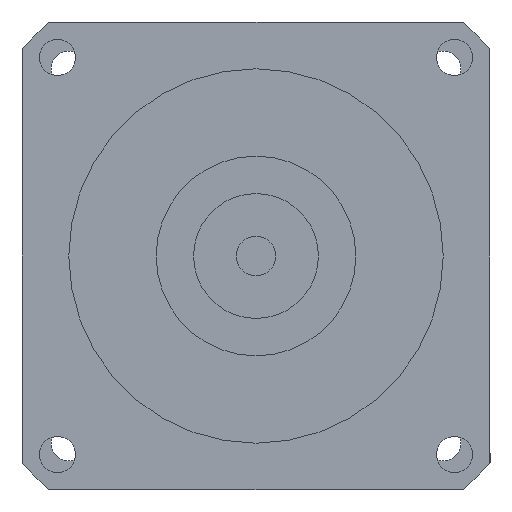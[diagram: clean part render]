
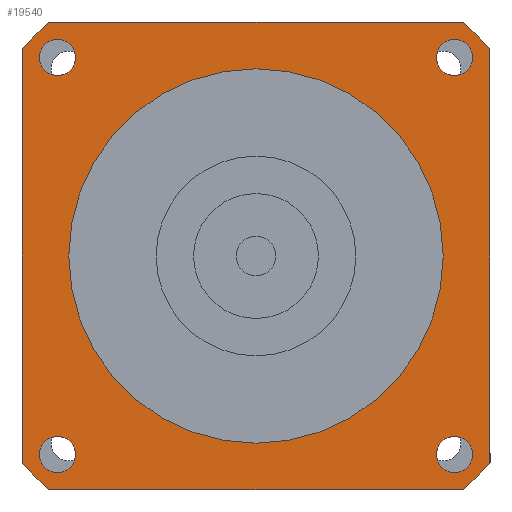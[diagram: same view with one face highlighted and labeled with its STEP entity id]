
A CAD part, left-side view. The second image highlights one B-rep face of the part: STEP entity #19540.
In plain terms, the highlighted planar face has unit normal (-1, 0, 0) as drawn and (0, 0, -1) by its records, which use the part's own axes.
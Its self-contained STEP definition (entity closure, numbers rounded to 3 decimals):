
#17700=CARTESIAN_POINT('',(-28.92,-31.82,-93.));
#17710=VERTEX_POINT('',#17700);
#17790=CARTESIAN_POINT('',(-34.72,-31.82,-93.));
#17800=VERTEX_POINT('',#17790);
#17830=CARTESIAN_POINT('',(-31.82,-31.82,-93.));
#17840=DIRECTION('',(0.,0.,-1.));
#17850=DIRECTION('',(0.,-1.,0.));
#17860=AXIS2_PLACEMENT_3D('',#17830,#17840,#17850);
#17870=CIRCLE('',#17860,2.9);
#17880=CARTESIAN_POINT('',(-31.82,-34.72,-93.));
#17890=VERTEX_POINT('',#17880);
#17900=EDGE_CURVE('',#17890,#17800,#17870,.T.);
#17920=EDGE_CURVE('',#17710,#17890,#17870,.T.);
#17970=CARTESIAN_POINT('',(-37.5,37.5,-93.));
#17980=DIRECTION('',(0.,0.,1.));
#17990=DIRECTION('',(-1.,0.,0.));
#18000=AXIS2_PLACEMENT_3D('',#17970,#17980,#17990);
#18010=PLANE('',#18000);
#18020=CARTESIAN_POINT('',(31.82,-31.82,-93.));
#18030=DIRECTION('',(0.,0.,-1.));
#18040=DIRECTION('',(1.,0.,0.));
#18050=AXIS2_PLACEMENT_3D('',#18020,#18030,#18040);
#18060=CIRCLE('',#18050,2.9);
#18070=CARTESIAN_POINT('',(34.72,-31.82,-93.));
#18080=VERTEX_POINT('',#18070);
#18090=CARTESIAN_POINT('',(31.82,-34.72,-93.));
#18100=VERTEX_POINT('',#18090);
#18110=EDGE_CURVE('',#18080,#18100,#18060,.T.);
#18120=ORIENTED_EDGE('',*,*,#18110,.F.);
#18130=CARTESIAN_POINT('',(31.82,-28.92,-93.));
#18140=VERTEX_POINT('',#18130);
#18150=EDGE_CURVE('',#18100,#18140,#18060,.T.);
#18160=ORIENTED_EDGE('',*,*,#18150,.F.);
#18170=EDGE_CURVE('',#18140,#18080,#18060,.T.);
#18180=ORIENTED_EDGE('',*,*,#18170,.F.);
#18190=EDGE_LOOP('',(#18180,#18160,#18120));
#18200=FACE_BOUND('',#18190,.T.);
#18210=CARTESIAN_POINT('',(31.82,31.82,-93.));
#18220=DIRECTION('',(0.,0.,-1.));
#18230=DIRECTION('',(0.,1.,0.));
#18240=AXIS2_PLACEMENT_3D('',#18210,#18220,#18230);
#18250=CIRCLE('',#18240,2.9);
#18260=CARTESIAN_POINT('',(31.82,34.72,-93.));
#18270=VERTEX_POINT('',#18260);
#18280=CARTESIAN_POINT('',(34.72,31.82,-93.));
#18290=VERTEX_POINT('',#18280);
#18300=EDGE_CURVE('',#18270,#18290,#18250,.T.);
#18310=ORIENTED_EDGE('',*,*,#18300,.F.);
#18320=CARTESIAN_POINT('',(28.92,31.82,-93.));
#18330=VERTEX_POINT('',#18320);
#18340=EDGE_CURVE('',#18290,#18330,#18250,.T.);
#18350=ORIENTED_EDGE('',*,*,#18340,.F.);
#18360=EDGE_CURVE('',#18330,#18270,#18250,.T.);
#18370=ORIENTED_EDGE('',*,*,#18360,.F.);
#18380=EDGE_LOOP('',(#18370,#18350,#18310));
#18390=FACE_BOUND('',#18380,.T.);
#18400=CARTESIAN_POINT('',(-31.82,31.82,-93.));
#18410=DIRECTION('',(0.,0.,-1.));
#18420=DIRECTION('',(-1.,0.,0.));
#18430=AXIS2_PLACEMENT_3D('',#18400,#18410,#18420);
#18440=CIRCLE('',#18430,2.9);
#18450=CARTESIAN_POINT('',(-34.72,31.82,-93.));
#18460=VERTEX_POINT('',#18450);
#18470=CARTESIAN_POINT('',(-31.82,34.72,-93.));
#18480=VERTEX_POINT('',#18470);
#18490=EDGE_CURVE('',#18460,#18480,#18440,.T.);
#18500=ORIENTED_EDGE('',*,*,#18490,.F.);
#18510=CARTESIAN_POINT('',(-31.82,28.92,-93.));
#18520=VERTEX_POINT('',#18510);
#18530=EDGE_CURVE('',#18480,#18520,#18440,.T.);
#18540=ORIENTED_EDGE('',*,*,#18530,.F.);
#18550=EDGE_CURVE('',#18520,#18460,#18440,.T.);
#18560=ORIENTED_EDGE('',*,*,#18550,.F.);
#18570=EDGE_LOOP('',(#18560,#18540,#18500));
#18580=FACE_BOUND('',#18570,.T.);
#18590=ORIENTED_EDGE('',*,*,#17900,.F.);
#18600=EDGE_CURVE('',#17800,#17710,#17870,.T.);
#18610=ORIENTED_EDGE('',*,*,#18600,.F.);
#18620=ORIENTED_EDGE('',*,*,#17920,.F.);
#18630=EDGE_LOOP('',(#18620,#18610,#18590));
#18640=FACE_BOUND('',#18630,.T.);
#18650=CARTESIAN_POINT('',(0.,0.,
-93.));
#18660=DIRECTION('',(0.,0.,1.));
#18670=DIRECTION('',(0.,-1.,0.));
#18680=AXIS2_PLACEMENT_3D('',#18650,#18660,#18670);
#18690=CIRCLE('',#18680,50.);
#18700=CARTESIAN_POINT('',(-37.5,-33.072,-93.));
#18710=VERTEX_POINT('',#18700);
#18720=CARTESIAN_POINT('',(-33.072,-37.5,-93.));
#18730=VERTEX_POINT('',#18720);
#18740=EDGE_CURVE('',#18710,#18730,#18690,.T.);
#18750=ORIENTED_EDGE('',*,*,#18740,.F.);
#18760=CARTESIAN_POINT('',(-37.5,-37.5,-93.));
#18770=DIRECTION('',(1.,0.,0.));
#18780=VECTOR('',#18770,1000.);
#18790=LINE('',#18760,#18780);
#18800=CARTESIAN_POINT('',(33.072,-37.5,-93.));
#18810=VERTEX_POINT('',#18800);
#18820=EDGE_CURVE('',#18730,#18810,#18790,.T.);
#18830=ORIENTED_EDGE('',*,*,#18820,.F.);
#18840=CARTESIAN_POINT('',(0.,0.,
-93.));
#18850=DIRECTION('',(0.,0.,1.));
#18860=DIRECTION('',(0.,-1.,0.));
#18870=AXIS2_PLACEMENT_3D('',#18840,#18850,#18860);
#18880=CIRCLE('',#18870,50.);
#18890=CARTESIAN_POINT('',(37.5,-33.072,-93.));
#18900=VERTEX_POINT('',#18890);
#18910=EDGE_CURVE('',#18810,#18900,#18880,.T.);
#18920=ORIENTED_EDGE('',*,*,#18910,.F.);
#18930=CARTESIAN_POINT('',(37.5,-37.5,-93.));
#18940=DIRECTION('',(0.,1.,0.));
#18950=VECTOR('',#18940,1000.);
#18960=LINE('',#18930,#18950);
#18970=CARTESIAN_POINT('',(37.5,33.072,-93.));
#18980=VERTEX_POINT('',#18970);
#18990=EDGE_CURVE('',#18900,#18980,#18960,.T.);
#19000=ORIENTED_EDGE('',*,*,#18990,.F.);
#19010=CARTESIAN_POINT('',(0.,0.,
-93.));
#19020=DIRECTION('',(0.,0.,1.));
#19030=DIRECTION('',(0.,-1.,0.));
#19040=AXIS2_PLACEMENT_3D('',#19010,#19020,#19030);
#19050=CIRCLE('',#19040,50.);
#19060=CARTESIAN_POINT('',(33.072,37.5,-93.));
#19070=VERTEX_POINT('',#19060);
#19080=EDGE_CURVE('',#18980,#19070,#19050,.T.);
#19090=ORIENTED_EDGE('',*,*,#19080,.F.);
#19100=CARTESIAN_POINT('',(37.5,37.5,-93.));
#19110=DIRECTION('',(-1.,0.,0.));
#19120=VECTOR('',#19110,1000.);
#19130=LINE('',#19100,#19120);
#19140=CARTESIAN_POINT('',(-33.072,37.5,-93.));
#19150=VERTEX_POINT('',#19140);
#19160=EDGE_CURVE('',#19070,#19150,#19130,.T.);
#19170=ORIENTED_EDGE('',*,*,#19160,.F.);
#19180=CARTESIAN_POINT('',(0.,0.,
-93.));
#19190=DIRECTION('',(0.,0.,1.));
#19200=DIRECTION('',(0.,-1.,0.));
#19210=AXIS2_PLACEMENT_3D('',#19180,#19190,#19200);
#19220=CIRCLE('',#19210,50.);
#19230=CARTESIAN_POINT('',(-37.5,33.072,-93.));
#19240=VERTEX_POINT('',#19230);
#19250=EDGE_CURVE('',#19150,#19240,#19220,.T.);
#19260=ORIENTED_EDGE('',*,*,#19250,.F.);
#19270=CARTESIAN_POINT('',(-37.5,37.5,-93.));
#19280=DIRECTION('',(0.,-1.,0.));
#19290=VECTOR('',#19280,1000.);
#19300=LINE('',#19270,#19290);
#19310=EDGE_CURVE('',#19240,#18710,#19300,.T.);
#19320=ORIENTED_EDGE('',*,*,#19310,.F.);
#19330=EDGE_LOOP('',(#19320,#19260,#19170,#19090,#19000,#18920,#18830,
#18750));
#19340=FACE_OUTER_BOUND('',#19330,.T.);
#19350=CARTESIAN_POINT('',(0.,0.,
-93.));
#19360=DIRECTION('',(0.,0.,1.));
#19370=DIRECTION('',(0.,-1.,0.));
#19380=AXIS2_PLACEMENT_3D('',#19350,#19360,#19370);
#19390=CIRCLE('',#19380,30.);
#19400=CARTESIAN_POINT('',(30.,0.,-93.));
#19410=VERTEX_POINT('',#19400);
#19420=CARTESIAN_POINT('',(-30.,0.,-93.));
#19430=VERTEX_POINT('',#19420);
#19440=EDGE_CURVE('',#19410,#19430,#19390,.T.);
#19450=ORIENTED_EDGE('',*,*,#19440,.T.);
#19460=CARTESIAN_POINT('',(0.,-30.,-93.));
#19470=VERTEX_POINT('',#19460);
#19480=EDGE_CURVE('',#19470,#19410,#19390,.T.);
#19490=ORIENTED_EDGE('',*,*,#19480,.T.);
#19500=EDGE_CURVE('',#19430,#19470,#19390,.T.);
#19510=ORIENTED_EDGE('',*,*,#19500,.T.);
#19520=EDGE_LOOP('',(#19510,#19490,#19450));
#19530=FACE_BOUND('',#19520,.T.);
#19540=ADVANCED_FACE('',(#18200,#18390,#18580,#18640,#19340,#19530),
#18010,.F.);
